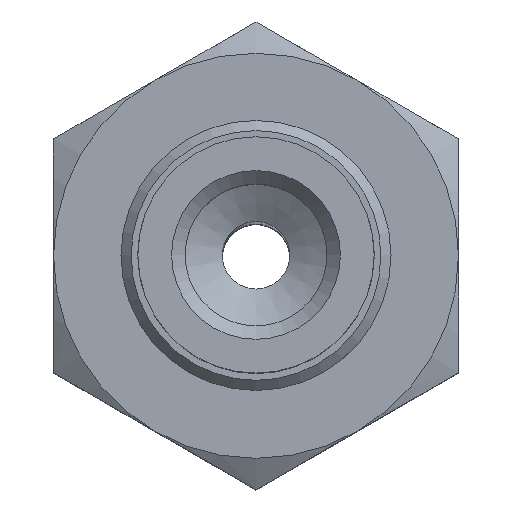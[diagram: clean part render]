
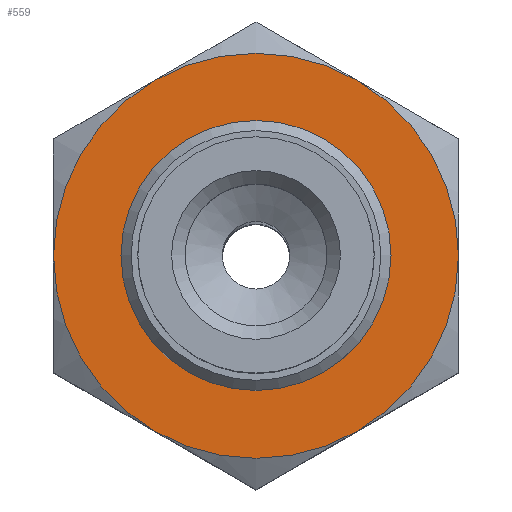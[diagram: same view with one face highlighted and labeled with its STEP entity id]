
A CAD part, top view. The second image highlights one B-rep face of the part: STEP entity #559.
In plain terms, the highlighted planar face has unit normal (0, 0, 1).
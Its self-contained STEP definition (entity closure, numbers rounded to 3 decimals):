
#559=ADVANCED_FACE('',(#825,#826),#827,.T.);
#825=FACE_BOUND('',#1244,.T.);
#826=FACE_OUTER_BOUND('',#1245,.T.);
#827=PLANE('',#1246);
#1244=EDGE_LOOP('',(#1824));
#1245=EDGE_LOOP('',(#1825,#1826,#1827,#1828,#1829,#1830));
#1246=AXIS2_PLACEMENT_3D('',#1831,#1832,#1833);
#1824=ORIENTED_EDGE('',*,*,#2769,.T.);
#1825=ORIENTED_EDGE('',*,*,#2770,.T.);
#1826=ORIENTED_EDGE('',*,*,#2771,.T.);
#1827=ORIENTED_EDGE('',*,*,#2735,.T.);
#1828=ORIENTED_EDGE('',*,*,#2757,.T.);
#1829=ORIENTED_EDGE('',*,*,#2772,.T.);
#1830=ORIENTED_EDGE('',*,*,#2767,.T.);
#1831=CARTESIAN_POINT('',(-6.928,-6.0,3.0));
#1832=DIRECTION('',(0.0,0.0,1.0));
#1833=DIRECTION('',(1.0,0.0,0.0));
#2735=EDGE_CURVE('',#3099,#3090,#3100,.T.);
#2757=EDGE_CURVE('',#3090,#3136,#3138,.T.);
#2767=EDGE_CURVE('',#3114,#3105,#3151,.T.);
#2769=EDGE_CURVE('',#3153,#3153,#3154,.T.);
#2770=EDGE_CURVE('',#3105,#3132,#3155,.T.);
#2771=EDGE_CURVE('',#3132,#3099,#3156,.T.);
#2772=EDGE_CURVE('',#3136,#3114,#3157,.T.);
#3090=VERTEX_POINT('',#3645);
#3099=VERTEX_POINT('',#3667);
#3100=CIRCLE('',#3668,6.0);
#3105=VERTEX_POINT('',#3678);
#3114=VERTEX_POINT('',#3700);
#3132=VERTEX_POINT('',#3744);
#3136=VERTEX_POINT('',#3756);
#3138=CIRCLE('',#3762,6.0);
#3151=CIRCLE('',#3791,6.0);
#3153=VERTEX_POINT('',#3793);
#3154=CIRCLE('',#3794,3.925);
#3155=CIRCLE('',#3795,6.0);
#3156=CIRCLE('',#3796,6.0);
#3157=CIRCLE('',#3797,6.0);
#3645=CARTESIAN_POINT('',(-5.196,3.0,3.0));
#3667=CARTESIAN_POINT('',(0.,6.0,3.0));
#3668=AXIS2_PLACEMENT_3D('',#4514,#4515,#4516);
#3678=CARTESIAN_POINT('',(5.196,-3.0,3.0));
#3700=CARTESIAN_POINT('',(0.,-6.0,3.0));
#3744=CARTESIAN_POINT('',(5.196,3.0,3.0));
#3756=CARTESIAN_POINT('',(-5.196,-3.0,3.0));
#3762=AXIS2_PLACEMENT_3D('',#4527,#4528,#4529);
#3791=AXIS2_PLACEMENT_3D('',#4542,#4543,#4544);
#3793=CARTESIAN_POINT('',(3.925,0.0,3.0));
#3794=AXIS2_PLACEMENT_3D('',#4548,#4549,#4550);
#3795=AXIS2_PLACEMENT_3D('',#4551,#4552,#4553);
#3796=AXIS2_PLACEMENT_3D('',#4554,#4555,#4556);
#3797=AXIS2_PLACEMENT_3D('',#4557,#4558,#4559);
#4514=CARTESIAN_POINT('',(0.,0.0,3.0));
#4515=DIRECTION('',(0.0,0.,1.0));
#4516=DIRECTION('',(0.0,-1.0,0.));
#4527=CARTESIAN_POINT('',(0.,0.0,3.0));
#4528=DIRECTION('',(0.0,0.,1.0));
#4529=DIRECTION('',(0.0,-1.0,0.));
#4542=CARTESIAN_POINT('',(0.,0.0,3.0));
#4543=DIRECTION('',(0.0,0.,1.0));
#4544=DIRECTION('',(0.0,-1.0,0.));
#4548=CARTESIAN_POINT('',(0.0,0.0,3.0));
#4549=DIRECTION('',(0.0,0.0,-1.0));
#4550=DIRECTION('',(1.0,0.0,0.0));
#4551=CARTESIAN_POINT('',(0.,0.0,3.0));
#4552=DIRECTION('',(0.0,0.,1.0));
#4553=DIRECTION('',(0.0,-1.0,0.));
#4554=CARTESIAN_POINT('',(0.,0.0,3.0));
#4555=DIRECTION('',(0.0,0.,1.0));
#4556=DIRECTION('',(0.0,-1.0,0.));
#4557=CARTESIAN_POINT('',(0.,0.0,3.0));
#4558=DIRECTION('',(0.0,0.,1.0));
#4559=DIRECTION('',(0.0,-1.0,0.));
